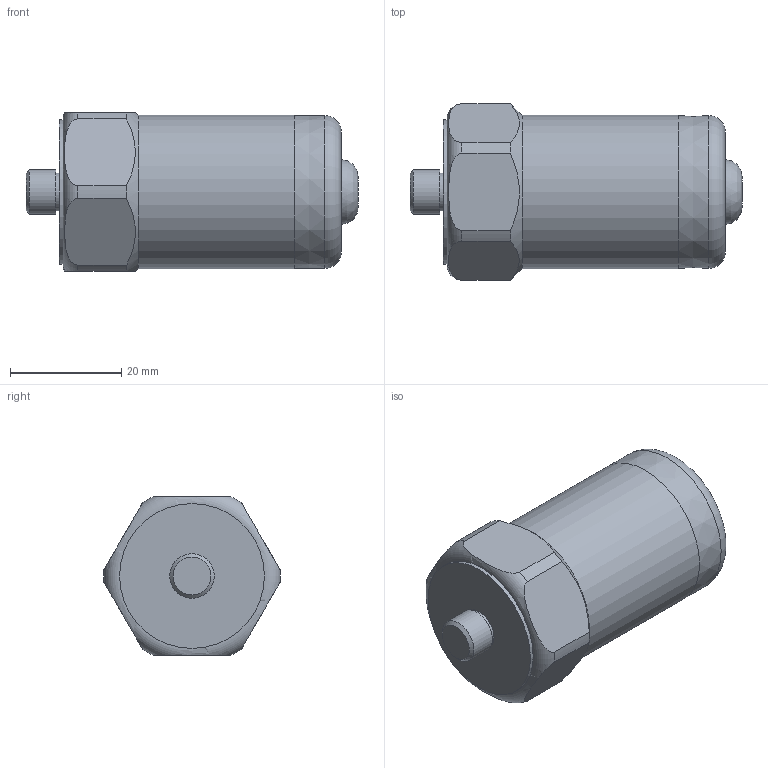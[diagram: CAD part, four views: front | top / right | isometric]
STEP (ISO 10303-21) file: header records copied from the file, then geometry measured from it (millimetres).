
FILE_DESCRIPTION(/* description */ (''),/* implementation_level */ '2;1');
FILE_NAME(/* name */ 'Z:\Engineering\Drawings\3D Library\Assemblies\Website\420 Velocity\HS-420XXX0208.stp',/* time_stamp */ '2023-05-03T13:35:53+01:00',/* author */ ('Ricardo.Peneda'),/* organization */ (''),/* preprocessor_version */ 'ST-DEVELOPER v18.1',/* originating_system */ 'Autodesk Inventor 2021',/* authorisation */ '');
FILE_SCHEMA (('AUTOMOTIVE_DESIGN { 1 0 10303 214 3 1 1 }'));
Length unit declared in the file: inch
Products named in the file (1): HS-420XXX0208_Shrinkwrap_1
Bounding box: 59.62 x 31.69 x 28.5 mm (x, y, z)
Volume: 14869.9 mm3; surface area: 10427.3 mm2
Topology: 3 solids, 3 shells, 53 faces, 144 edges, 102 vertices
Faces by surface type: plane 17, cone 17, cylinder 16, torus 2, bspline 1
Full cylindrical faces by diameter (mm): 5 x1, 6.3 x1, 6.35 x1, 6.8 x1, 7 x1, 7.5 x1, 8 x1, 25.3 x1, 26 x1, 27.5 x1
Entity records: 1984 total; most frequent: CARTESIAN_POINT 472, DIRECTION 327, ORIENTED_EDGE 288, EDGE_CURVE 144, AXIS2_PLACEMENT_3D 144, VERTEX_POINT 102, CIRCLE 91, EDGE_LOOP 60
